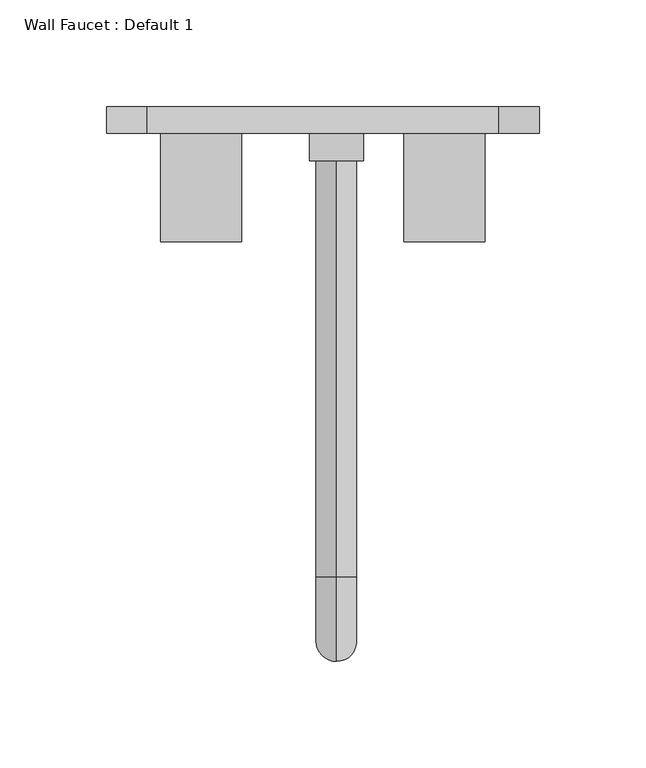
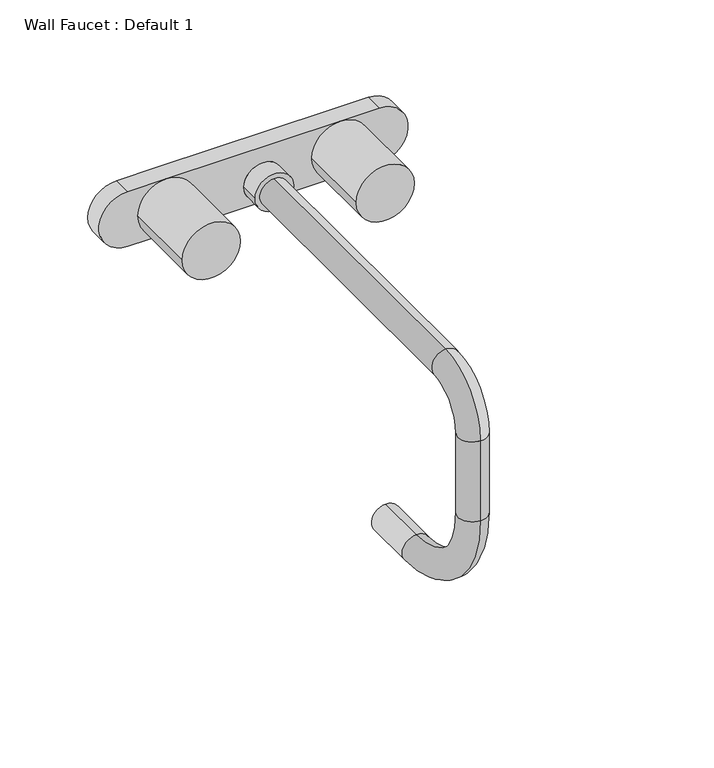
"""IFC4 building model written with IfcOpenShell, lengths in millimetres: flow terminal geometry, Wall Faucet : Default 1."""

from ifc_helpers import new_model, si_unit, point, frame, origin, place, context, project, spatial, circle_curve, ellipse_curve, trimmed, source, transform, mapped, element, save
from ifc_brep_helpers import plane_surface, cylinder_surface, revolved_surface, advanced_brep


def wall_faucet_default_1_a1a6fd1c(model_context):
    return source(origin(), model_context, "Body", "AdvancedBrep", [
        advanced_brep(
        [(91.8892406, 180.1454011, 927.1), (91.8892406, 180.1454011, 889.0), (66.4892406, 180.1454011, 889.0), (-47.8107594, 180.1454011, 889.0), (-73.2107594, 180.1454011, 889.0), (-73.2107594, 180.1454011, 927.1), (-47.8107594, 180.1454011, 927.1), (66.4892406, 180.1454011, 927.1), (15.6892406, -40.5170989, 912.8125), (15.6892406, -40.5170989, 893.7625), (15.6892406, 154.7454011, 893.7625), (15.6892406, 154.7454011, 912.8125), (15.6892406, -80.2045989, 873.125), (15.6892406, -61.1545989, 873.125), (15.6892406, -80.2045989, 817.5625), (15.6892406, -61.1545989, 817.5625), (15.6892406, -7.1795989, 744.5375), (15.6892406, -7.1795989, 763.5875), (15.6892406, 27.7454011, 744.5375), (15.6892406, 27.7454011, 763.5875), (2.9892406, 154.7454011, 903.2875), (28.3892406, 154.7454011, 903.2875), (2.9892406, 167.6454011, 903.2875), (28.3892406, 167.6454011, 903.2875), (-73.2107594, 167.6454011, 927.1), (-73.2107594, 167.6454011, 889.0), (-47.8107594, 167.6454011, 889.0), (-66.8607594, 167.6454011, 908.05), (-47.8107594, 167.6454011, 927.1), (91.8892406, 167.6454011, 889.0), (91.8892406, 167.6454011, 927.1), (66.4892406, 167.6454011, 927.1), (85.5392406, 167.6454011, 908.05), (66.4892406, 167.6454011, 889.0), (-28.7607594, 167.6454011, 908.05), (47.4392406, 167.6454011, 908.05), (-66.8607594, 116.6454011, 908.05), (-28.7607594, 116.6454011, 908.05), (47.4392406, 116.6454011, 908.05), (85.5392406, 116.6454011, 908.05)],
        [
            (0, 1, circle_curve(frame((91.8892406, 180.1454011, 908.05), z_axis=(0.0, 1.0, 0.0), x_axis=(1.0, 0.0, 0.0)), 19.05)),
            (1, 2),
            (2, 3),
            (3, 4),
            (4, 5, circle_curve(frame((-73.2107594, 180.1454011, 908.05), z_axis=(0.0, 1.0, 0.0), x_axis=(1.0, 0.0, 0.0)), 19.05)),
            (5, 6),
            (6, 7),
            (7, 0),
            (8, 9, circle_curve(frame((15.6892406, -40.5170989, 903.2875), z_axis=(0.0, 1.0, 0.0), x_axis=(0.0, 0.0, -1.0)), 9.525)),
            (9, 10),
            (10, 11, circle_curve(frame((15.6892406, 154.7454011, 903.2875), z_axis=(0.0, -1.0, 0.0), x_axis=(0.0, 0.0, -1.0)), 9.525)),
            (11, 8),
            (9, 8, circle_curve(frame((15.6892406, -40.5170989, 903.2875), z_axis=(0.0, 1.0, 0.0), x_axis=(0.0, 0.0, -1.0)), 9.525)),
            (11, 10, circle_curve(frame((15.6892406, 154.7454011, 903.2875), z_axis=(0.0, -1.0, 0.0), x_axis=(0.0, 0.0, -1.0)), 9.525)),
            (8, 12, circle_curve(frame((15.6892406, -40.5170989, 873.125), z_axis=(1.0, 0.0, 0.0), x_axis=(0.0, 0.0, 1.0)), 39.6875)),
            (12, 13, circle_curve(frame((15.6892406, -70.6795989, 873.125), z_axis=(0.0, 0.0, 1.0), x_axis=(0.0, 1.0, 0.0)), 9.525)),
            (13, 9, circle_curve(frame((15.6892406, -40.5170989, 873.125), z_axis=(-1.0, 0.0, 0.0), x_axis=(0.0, 0.0, 1.0)), 20.6375)),
            (13, 12, circle_curve(frame((15.6892406, -70.6795989, 873.125), z_axis=(0.0, 0.0, 1.0), x_axis=(0.0, 1.0, 0.0)), 9.525)),
            (12, 14),
            (14, 15, circle_curve(frame((15.6892406, -70.6795989, 817.5625), z_axis=(0.0, 0.0, 1.0), x_axis=(0.0, 1.0, 0.0)), 9.525)),
            (15, 13),
            (15, 14, circle_curve(frame((15.6892406, -70.6795989, 817.5625), z_axis=(0.0, 0.0, 1.0), x_axis=(0.0, 1.0, 0.0)), 9.525)),
            (14, 16, circle_curve(frame((15.6892406, -7.1795989, 817.5625), z_axis=(1.0, 0.0, 0.0), x_axis=(0.0, -1.0, 0.0)), 73.025)),
            (16, 17, circle_curve(frame((15.6892406, -7.1795989, 754.0625), z_axis=(0.0, -1.0, 0.0), x_axis=(0.0, 0.0, 1.0)), 9.525)),
            (17, 15, circle_curve(frame((15.6892406, -7.1795989, 817.5625), z_axis=(-1.0, 0.0, 0.0), x_axis=(0.0, -1.0, 0.0)), 53.975)),
            (17, 16, circle_curve(frame((15.6892406, -7.1795989, 754.0625), z_axis=(0.0, -1.0, 0.0), x_axis=(0.0, 0.0, 1.0)), 9.525)),
            (18, 19, circle_curve(frame((15.6892406, 27.7454011, 754.0625), z_axis=(0.0, 1.0, 0.0), x_axis=(0.0, 0.0, 1.0)), 9.525)),
            (19, 18, circle_curve(frame((15.6892406, 27.7454011, 754.0625), z_axis=(0.0, 1.0, 0.0), x_axis=(0.0, 0.0, 1.0)), 9.525)),
            (16, 18),
            (19, 17),
            (20, 21, circle_curve(frame((15.6892406, 154.7454011, 903.2875), z_axis=(0.0, -1.0, 0.0), x_axis=(1.0, 0.0, 0.0)), 12.7)),
            (21, 20, circle_curve(frame((15.6892406, 154.7454011, 903.2875), z_axis=(0.0, -1.0, 0.0), x_axis=(1.0, 0.0, 0.0)), 12.7)),
            (20, 22),
            (22, 23, circle_curve(frame((15.6892406, 167.6454011, 903.2875), z_axis=(0.0, -1.0, 0.0), x_axis=(1.0, 0.0, 0.0)), 12.7)),
            (23, 21),
            (23, 22, circle_curve(frame((15.6892406, 167.6454011, 903.2875), z_axis=(0.0, -1.0, 0.0), x_axis=(1.0, 0.0, 0.0)), 12.7)),
            (24, 25, circle_curve(frame((-73.2107594, 167.6454011, 908.05), z_axis=(0.0, -1.0, 0.0), x_axis=(1.0, 0.0, 0.0)), 19.05)),
            (25, 26),
            (26, 27, circle_curve(frame((-47.8107594, 167.6454011, 908.05), z_axis=(0.0, 1.0, 0.0), x_axis=(1.0, 0.0, 0.0)), 19.05)),
            (27, 28, circle_curve(frame((-47.8107594, 167.6454011, 908.05), z_axis=(0.0, 1.0, 0.0), x_axis=(1.0, 0.0, 0.0)), 19.05)),
            (28, 24),
            (29, 30, circle_curve(frame((91.8892406, 167.6454011, 908.05), z_axis=(0.0, -1.0, 0.0), x_axis=(1.0, 0.0, 0.0)), 19.05)),
            (30, 31),
            (31, 32, circle_curve(frame((66.4892406, 167.6454011, 908.05), z_axis=(0.0, 1.0, 0.0), x_axis=(1.0, 0.0, 0.0)), 19.05)),
            (32, 33, circle_curve(frame((66.4892406, 167.6454011, 908.05), z_axis=(0.0, 1.0, 0.0), x_axis=(1.0, 0.0, 0.0)), 19.05)),
            (33, 29),
            (31, 28),
            (28, 34, circle_curve(frame((-47.8107594, 167.6454011, 908.05), z_axis=(0.0, 1.0, 0.0), x_axis=(1.0, 0.0, 0.0)), 19.05)),
            (34, 26, circle_curve(frame((-47.8107594, 167.6454011, 908.05), z_axis=(0.0, 1.0, 0.0), x_axis=(1.0, 0.0, 0.0)), 19.05)),
            (26, 33),
            (33, 35, circle_curve(frame((66.4892406, 167.6454011, 908.05), z_axis=(0.0, 1.0, 0.0), x_axis=(1.0, 0.0, 0.0)), 19.05)),
            (35, 31, circle_curve(frame((66.4892406, 167.6454011, 908.05), z_axis=(0.0, 1.0, 0.0), x_axis=(1.0, 0.0, 0.0)), 19.05)),
            (30, 0),
            (5, 24),
            (4, 25),
            (1, 29),
            (36, 37, circle_curve(frame((-47.8107594, 116.6454011, 908.05), z_axis=(0.0, -1.0, 0.0), x_axis=(1.0, 0.0, 0.0)), 19.05)),
            (37, 36, circle_curve(frame((-47.8107594, 116.6454011, 908.05), z_axis=(0.0, -1.0, 0.0), x_axis=(1.0, 0.0, 0.0)), 19.05)),
            (38, 39, circle_curve(frame((66.4892406, 116.6454011, 908.05), z_axis=(0.0, -1.0, 0.0), x_axis=(1.0, 0.0, 0.0)), 19.05)),
            (39, 38, circle_curve(frame((66.4892406, 116.6454011, 908.05), z_axis=(0.0, -1.0, 0.0), x_axis=(1.0, 0.0, 0.0)), 19.05)),
            (36, 27),
            (34, 37),
            (38, 35),
            (32, 39),
        ],
        [
            plane_surface(frame((6.1642406, 180.1454011, 903.2875), z_axis=(0.0, 1.0, 0.0), x_axis=(0.0, 0.0, -1.0))),
            cylinder_surface(frame((15.6892406, 180.1454011, 903.2875), z_axis=(0.0, 1.0, 0.0), x_axis=(0.0, 0.0, -1.0)), 9.525),
            revolved_surface(trimmed(ellipse_curve(frame((15.6892406, -40.5170989, 903.2875), z_axis=(0.0, 1.0, 0.0), x_axis=(0.0, 0.0, -1.0)), 9.525, 9.525), [point((15.6892406, -40.5170989, 912.8125))], [point((15.6892406, -40.5170989, 893.7625))], True, "CARTESIAN"), (15.6892406, -40.5170989, 873.125), (1.0, 0.0, 0.0)),
            revolved_surface(trimmed(ellipse_curve(frame((15.6892406, -40.5170989, 903.2875), z_axis=(0.0, 1.0, 0.0), x_axis=(0.0, 0.0, -1.0)), 9.525, 9.525), [point((15.6892406, -40.5170989, 893.7625))], [point((15.6892406, -40.5170989, 912.8125))], True, "CARTESIAN"), (15.6892406, -40.5170989, 873.125), (1.0, 0.0, 0.0)),
            cylinder_surface(frame((15.6892406, -70.6795989, 873.125), z_axis=(0.0, 0.0, 1.0), x_axis=(0.0, 1.0, 0.0)), 9.525),
            revolved_surface(trimmed(ellipse_curve(frame((15.6892406, -70.6795989, 817.5625), z_axis=(0.0, 0.0, 1.0), x_axis=(0.0, 1.0, 0.0)), 9.525, 9.525), [point((15.6892406, -80.2045989, 817.5625))], [point((15.6892406, -61.1545989, 817.5625))], True, "CARTESIAN"), (15.6892406, -7.1795989, 817.5625), (1.0, 0.0, 0.0)),
            revolved_surface(trimmed(ellipse_curve(frame((15.6892406, -70.6795989, 817.5625), z_axis=(0.0, 0.0, 1.0), x_axis=(0.0, 1.0, 0.0)), 9.525, 9.525), [point((15.6892406, -61.1545989, 817.5625))], [point((15.6892406, -80.2045989, 817.5625))], True, "CARTESIAN"), (15.6892406, -7.1795989, 817.5625), (1.0, 0.0, 0.0)),
            plane_surface(frame((6.1642406, 27.7454011, 754.0625), z_axis=(0.0, 1.0, 0.0), x_axis=(0.0, 0.0, 1.0))),
            cylinder_surface(frame((15.6892406, -7.1795989, 754.0625), z_axis=(0.0, -1.0, 0.0), x_axis=(0.0, 0.0, 1.0)), 9.525),
            plane_surface(frame((28.3892406, 154.7454011, 903.2875), z_axis=(0.0, -1.0, 0.0), x_axis=(0.0, 0.0, 1.0))),
            cylinder_surface(frame((15.6892406, 180.1454011, 903.2875), z_axis=(0.0, -1.0, 0.0), x_axis=(1.0, 0.0, 0.0)), 12.7),
            plane_surface(frame((-73.2107594, 167.6454011, 927.1), z_axis=(0.0, -1.0, 0.0), x_axis=(-1.0, 0.0, 0.0))),
            plane_surface(frame((91.8892406, 167.6454011, 927.1), z_axis=(0.0, 0.0, 1.0), x_axis=(0.0, 1.0, 0.0))),
            cylinder_surface(frame((-73.2107594, 180.1454011, 908.05), z_axis=(0.0, -1.0, 0.0), x_axis=(1.0, 0.0, 0.0)), 19.05),
            plane_surface(frame((-73.2107594, 167.6454011, 889.0), z_axis=(0.0, 0.0, -1.0), x_axis=(0.0, 1.0, 0.0))),
            cylinder_surface(frame((91.8892406, 180.1454011, 908.05), z_axis=(0.0, -1.0, 0.0), x_axis=(1.0, 0.0, 0.0)), 19.05),
            plane_surface(frame((-28.7607594, 116.6454011, 908.05), z_axis=(0.0, -1.0, 0.0), x_axis=(0.0, 0.0, 1.0))),
            cylinder_surface(frame((-47.8107594, 180.1454011, 908.05), z_axis=(0.0, -1.0, 0.0), x_axis=(1.0, 0.0, 0.0)), 19.05),
            cylinder_surface(frame((66.4892406, 1107.2454011, 908.05), z_axis=(0.0, -1.0, 0.0), x_axis=(1.0, 0.0, 0.0)), 19.05),
        ],
        [
            (0, [[1, 2, 3, 4, 5, 6, 7, 8]]),
            (1, [[9, 10, 11, 12]]),
            (1, [[13, -12, 14, -10]]),
            (2, [[-9, 15, 16, 17]]),
            (3, [[-13, -17, 18, -15]]),
            (4, [[-16, 19, 20, 21]]),
            (4, [[-18, -21, 22, -19]]),
            (5, [[-20, 23, 24, 25]]),
            (6, [[-22, -25, 26, -23]]),
            (7, [[27, 28]]),
            (8, [[-24, 29, -28, 30]]),
            (8, [[-26, -30, -27, -29]]),
            (9, [[31, 32], [-11, -14]]),
            (10, [[-31, 33, 34, 35]]),
            (10, [[-32, -35, 36, -33]]),
            (11, [[37, 38, 39, 40, 41]]),
            (11, [[42, 43, 44, 45, 46]]),
            (11, [[47, 48, 49, 50, 51, 52], [-34, -36]]),
            (12, [[53, -8, -7, -6, 54, -41, -47, -43]]),
            (13, [[-37, -54, -5, 55]]),
            (14, [[-55, -4, -3, -2, 56, -46, -50, -38]]),
            (15, [[-42, -56, -1, -53]]),
            (16, [[57, 58]]),
            (16, [[59, 60]]),
            (17, [[-57, 61, -39, -49, 62]]),
            (17, [[-58, -62, -48, -40, -61]]),
            (18, [[-59, 63, -51, -45, 64]]),
            (18, [[-60, -64, -44, -52, -63]]),
        ],
    ),
    ])


if __name__ == "__main__":
    model = new_model("IFC4")
    model_context = context("Model", 3, world=origin())
    ifc_project = project(units=[si_unit("LENGTHUNIT", "METRE", prefix="MILLI")], contexts=[model_context])
    site = spatial("IfcSite", under=ifc_project)
    building = spatial("IfcBuilding", under=site)
    placement = place(None, origin())
    wall_faucet_default_1_shape = wall_faucet_default_1_a1a6fd1c(model_context)
    element("IfcFlowTerminal", 1, ObjectType="Wall Faucet : Default 1", at=placement, inside=building, context=model_context, shape_type="MappedRepresentation", body=[
        mapped(wall_faucet_default_1_shape, transform((0.0, 0.0, 0.0), x_axis=(1.0, 0.0, 0.0), y_axis=(0.0, 1.0, 0.0), z_axis=(0.0, 0.0, 1.0))),
    ])
    save(model, "model.ifc")
